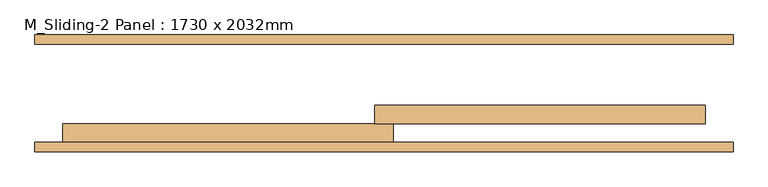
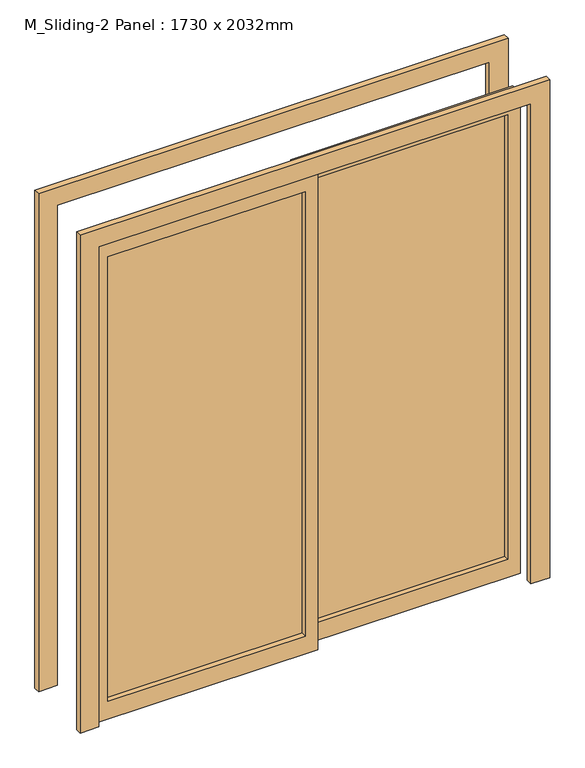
"""IFC4 building model written with IfcOpenShell, lengths in millimetres: door geometry, M_Sliding-2 Panel : 1730 x 2032mm."""

from ifc_helpers import new_model, si_unit, frame, origin, place, context, project, spatial, polyline, outline, extrude, source, transform, mapped, element, save


def m_sliding_2_panel_1730_x_2032mm_289bf79d(model_context):
    return source(origin(), model_context, "Body", "SweptSolid", [
        extrude(outline(polyline([(25.4, -187.175), (25.4, -180.825), (815.0, -180.825), (815.0, -187.175), (25.4, -187.175)])), frame((0.0, 0.0, 75.0), z_axis=(0.0, 0.0, 1.0), x_axis=(1.0, 0.0, 0.0)), (0.0, 0.0, 1.0), 1882.0),
        extrude(outline(polyline([(2032.0, -25.4), (0.0, -25.4), (0.0, 865.0), (2032.0, 865.0), (2032.0, -25.4)]), holes=[polyline([(1957.0, 24.6), (1957.0, 815.0), (75.0, 815.0), (75.0, 24.6), (1957.0, 24.6)])]), frame((0.0, -209.0, 0.0), z_axis=(0.0, 1.0, 0.0), x_axis=(0.0, 0.0, 1.0)), (0.0, 0.0, 1.0), 50.0),
        extrude(outline(polyline([(-815.0, -237.175), (-815.0, -230.825), (-24.6, -230.825), (-24.6, -237.175), (-815.0, -237.175)])), frame((0.0, 0.0, 75.0), z_axis=(0.0, 0.0, 1.0), x_axis=(1.0, 0.0, 0.0)), (0.0, 0.0, 1.0), 1882.0),
        extrude(outline(polyline([(2032.0, 25.4), (2032.0, -865.0), (0.0, -865.0), (0.0, 25.4), (2032.0, 25.4)]), holes=[polyline([(1957.0, -24.6), (75.0, -24.6), (75.0, -815.0), (1957.0, -815.0), (1957.0, -24.6)])]), frame((0.0, -259.0, 0.0), z_axis=(0.0, 1.0, 0.0), x_axis=(0.0, 0.0, 1.0)), (0.0, 0.0, 1.0), 50.0),
        extrude(outline(polyline([(0.0, -940.0), (0.0, -865.0), (2032.0, -865.0), (2032.0, 865.0), (0.0, 865.0), (0.0, 940.0), (2107.0, 940.0), (2107.0, -940.0), (0.0, -940.0)])), frame((0.0, 5.0, 0.0), z_axis=(0.0, 1.0, 0.0), x_axis=(0.0, 0.0, 1.0)), (0.0, 0.0, 1.0), 25.0),
        extrude(outline(polyline([(0.0, 940.0), (2107.0, 940.0), (2107.0, -940.0), (0.0, -940.0), (0.0, -865.0), (2032.0, -865.0), (2032.0, 865.0), (0.0, 865.0), (0.0, 940.0)])), frame((0.0, -284.0, 0.0), z_axis=(0.0, 1.0, 0.0), x_axis=(0.0, 0.0, 1.0)), (0.0, 0.0, 1.0), 25.0),
    ])


if __name__ == "__main__":
    model = new_model("IFC4")
    model_context = context("Model", 3, world=origin())
    ifc_project = project(units=[si_unit("LENGTHUNIT", "METRE", prefix="MILLI")], contexts=[model_context])
    site = spatial("IfcSite", under=ifc_project)
    building = spatial("IfcBuilding", under=site)
    placement = place(None, origin())
    m_sliding_2_panel_1730_x_2032mm_shape = m_sliding_2_panel_1730_x_2032mm_289bf79d(model_context)
    element("IfcDoor", 1, ObjectType="M_Sliding-2 Panel : 1730 x 2032mm", at=placement, inside=building, context=model_context, shape_type="MappedRepresentation", body=[
        mapped(m_sliding_2_panel_1730_x_2032mm_shape, transform((0.0, 0.0, 0.0), x_axis=(1.0, 0.0, 0.0), y_axis=(0.0, 1.0, 0.0), z_axis=(0.0, 0.0, 1.0))),
    ])
    save(model, "model.ifc")
